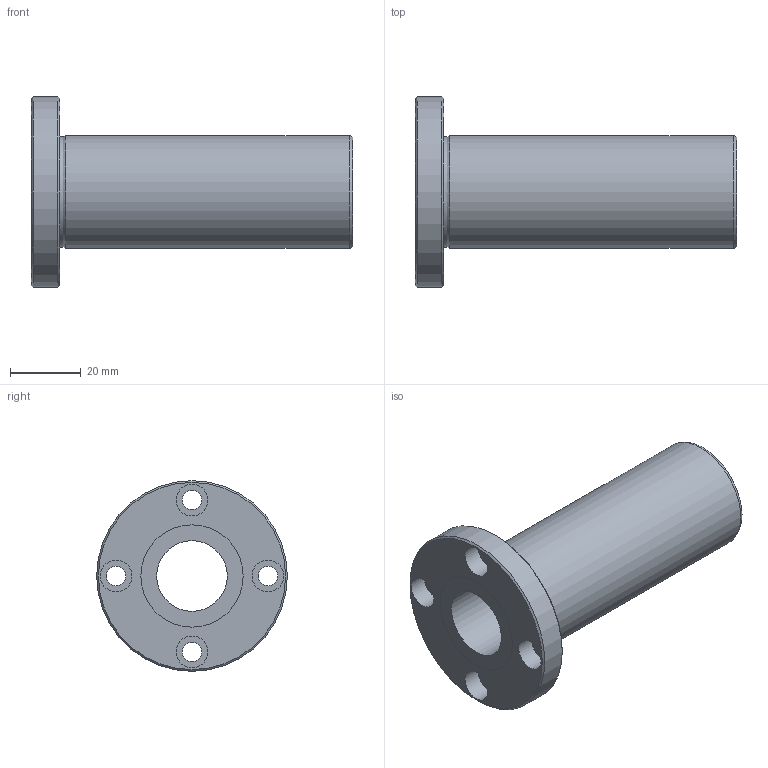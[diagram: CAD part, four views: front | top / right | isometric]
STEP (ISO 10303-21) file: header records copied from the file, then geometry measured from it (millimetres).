
FILE_DESCRIPTION((''),'2;1');
FILE_NAME('D:\製品 (図面)\カタログ用3D\メンテナンスフリー関連\STEP形式\LFD-MF\LFD20MF.stp','2010-06-01T15:45:08',('Tsuchiya'),(''),'Autodesk Inventor 10','Autodesk Inventor 10','');
FILE_SCHEMA(('AUTOMOTIVE_DESIGN { 1 0 10303 214 1 1 1 1 }'));
Length unit declared in the file: millimetre
Products named in the file (1): LFD20MF
Bounding box: 91 x 54 x 54 mm (x, y, z)
Volume: 54695.5 mm3; surface area: 19866.1 mm2
Topology: 1 solids, 1 shells, 26 faces, 47 edges, 30 vertices
Faces by surface type: cylinder 13, plane 9, cone 2, torus 1, bspline 1
Full cylindrical faces by diameter (mm): 5.5 x4, 9 x4, 20 x1, 29 x2, 32 x1, 54 x1
Entity records: 665 total; most frequent: CARTESIAN_POINT 149, DIRECTION 112, ORIENTED_EDGE 60, EDGE_LOOP 60, AXIS2_PLACEMENT_3D 56, FACE_BOUND 34, VERTEX_POINT 30, CIRCLE 30
